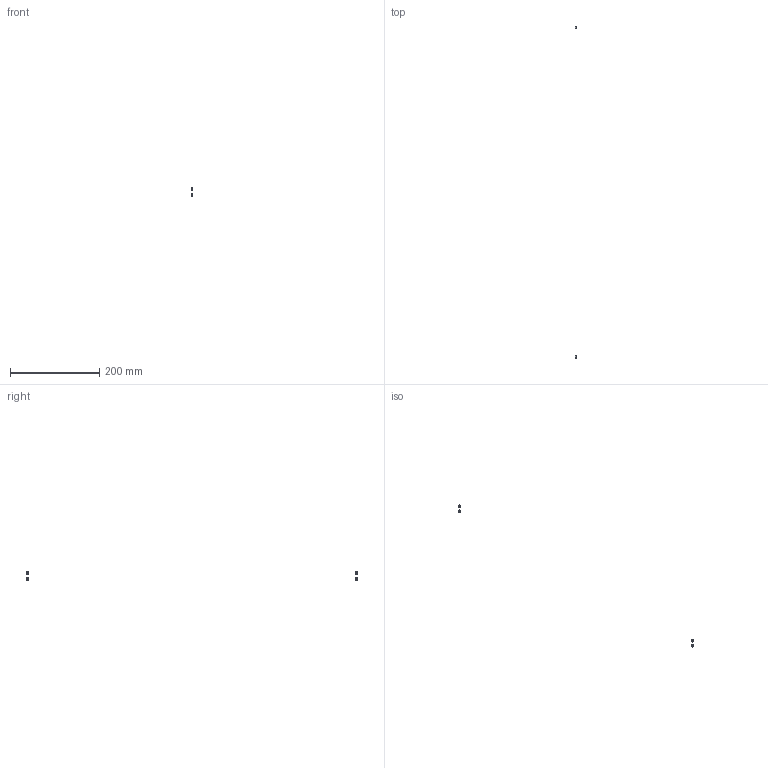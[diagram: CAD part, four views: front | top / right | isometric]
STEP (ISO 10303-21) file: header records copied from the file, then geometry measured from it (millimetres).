
FILE_DESCRIPTION(/* description */ (''),/* implementation_level */ '2;1');
FILE_NAME(/* name */ 'Y-7772~1',/* time_stamp */ '2014-02-14T19:40:49+01:00',/* author */ (''),/* organization */ (''),/* preprocessor_version */ 'ST-DEVELOPER v14',/* originating_system */ '',/* authorisation */ '');
FILE_SCHEMA (('AUTOMOTIVE_DESIGN'));
Length unit declared in the file: millimetre
Products named in the file (2): Document; nut DIN934-like, M3
Assembly tree (2 placements, depth 2):
  Document
    nut DIN934-like, M3  x2
Bounding box: 2.4 x 742.42 x 19.5 mm (x, y, z)
Volume: 202.7 mm3; surface area: 414.6 mm2
Topology: 4 solids, 4 shells, 88 faces, 192 edges, 112 vertices
Faces by surface type: bspline 56, plane 32
Entity records: 4062 total; most frequent: CARTESIAN_POINT 2177, ORIENTED_EDGE 288, PCURVE 288, DEFINITIONAL_REPRESENTATION 288, B_SPLINE_CURVE_WITH_KNOTS 276, SURFACE_CURVE 144, EDGE_CURVE 144, VERTEX_POINT 84
